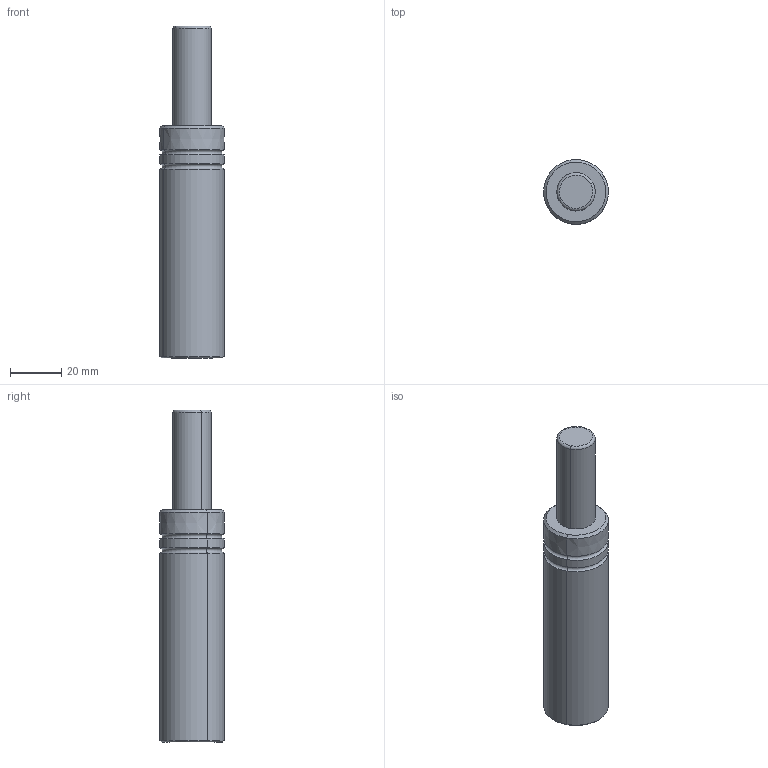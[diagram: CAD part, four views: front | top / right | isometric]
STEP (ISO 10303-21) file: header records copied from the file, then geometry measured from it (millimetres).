
FILE_DESCRIPTION(('CATIA V5 STEP Exchange'),'2;1');
FILE_NAME('W:\CATALOGO GENERAL 2018\FICHEROS CAD\003-TPH\TPH 320\TPH320x38.stp','2024-05-21T13:14:03+00:00',('none'),('none'),'CATIA Version 5 Release 17 (IN-10)','CATIA V5 STEP AP203','none');
FILE_SCHEMA(('CONFIG_CONTROL_DESIGN'));
Length unit declared in the file: millimetre
Products named in the file (1): TPH320
Bounding box: 25.38 x 25.38 x 130 mm (x, y, z)
Volume: 51875 mm3; surface area: 10202.6 mm2
Topology: 1 solids, 1 shells, 26 faces, 50 edges, 28 vertices
Faces by surface type: cylinder 8, cone 8, torus 6, plane 4
Entity records: 613 total; most frequent: ORIENTED_EDGE 100, CARTESIAN_POINT 94, DIRECTION 80, AXIS2_PLACEMENT_3D 50, EDGE_CURVE 50, CIRCLE 34, EDGE_LOOP 28, VERTEX_POINT 28
